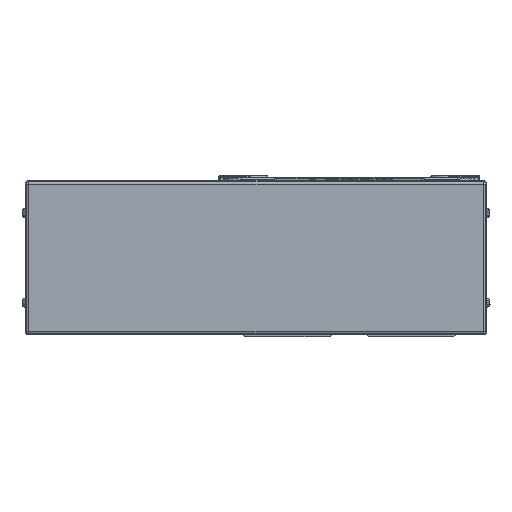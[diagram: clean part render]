
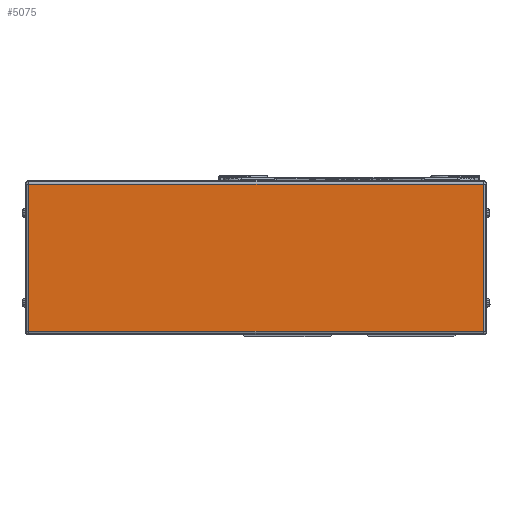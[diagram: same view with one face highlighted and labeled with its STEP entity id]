
A CAD part, left-side view. The second image highlights one B-rep face of the part: STEP entity #5075.
In plain terms, the highlighted planar face has unit normal (-1, 0, 0).
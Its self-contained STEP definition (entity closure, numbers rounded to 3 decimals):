
#5075=ADVANCED_FACE('',(#11625),#11626,.F.);
#11625=FACE_OUTER_BOUND('',#20592,.T.);
#11626=PLANE('',#20593);
#20592=EDGE_LOOP('',(#35264,#35265,#35266,#35267));
#20593=AXIS2_PLACEMENT_3D('',#35268,#35269,#35270);
#35264=ORIENTED_EDGE('',*,*,#55425,.T.);
#35265=ORIENTED_EDGE('',*,*,#54093,.T.);
#35266=ORIENTED_EDGE('',*,*,#55426,.T.);
#35267=ORIENTED_EDGE('',*,*,#53652,.T.);
#35268=CARTESIAN_POINT('',(-45.,180.5,0.));
#35269=DIRECTION('',(1.0,0.,0.));
#35270=DIRECTION('',(0.,0.,1.0));
#53652=EDGE_CURVE('',#65172,#65170,#65173,.T.);
#54093=EDGE_CURVE('',#65867,#65865,#65868,.T.);
#55425=EDGE_CURVE('',#65170,#65867,#67906,.T.);
#55426=EDGE_CURVE('',#65865,#65172,#67907,.T.);
#65170=VERTEX_POINT('',#81464);
#65172=VERTEX_POINT('',#81466);
#65173=LINE('',#81467,#81468);
#65865=VERTEX_POINT('',#82438);
#65867=VERTEX_POINT('',#82440);
#65868=LINE('',#82441,#82442);
#67906=LINE('',#85176,#85177);
#67907=LINE('',#85178,#85179);
#81464=CARTESIAN_POINT('',(-45.,178.5,41.));
#81466=CARTESIAN_POINT('',(-45.,-74.5,41.));
#81467=CARTESIAN_POINT('',(-45.,180.5,41.));
#81468=VECTOR('',#96978,10.0);
#82438=CARTESIAN_POINT('',(-45.,-74.5,-41.));
#82440=CARTESIAN_POINT('',(-45.,178.5,-41.));
#82441=CARTESIAN_POINT('',(-45.,180.5,-41.));
#82442=VECTOR('',#97573,10.0);
#85176=CARTESIAN_POINT('',(-45.,178.5,0.));
#85177=VECTOR('',#99364,10.0);
#85178=CARTESIAN_POINT('',(-45.,-74.5,0.));
#85179=VECTOR('',#99365,10.0);
#96978=DIRECTION('',(0.,1.0,0.));
#97573=DIRECTION('',(0.,-1.0,0.));
#99364=DIRECTION('',(0.,0.,-1.0));
#99365=DIRECTION('',(0.,0.,1.0));
